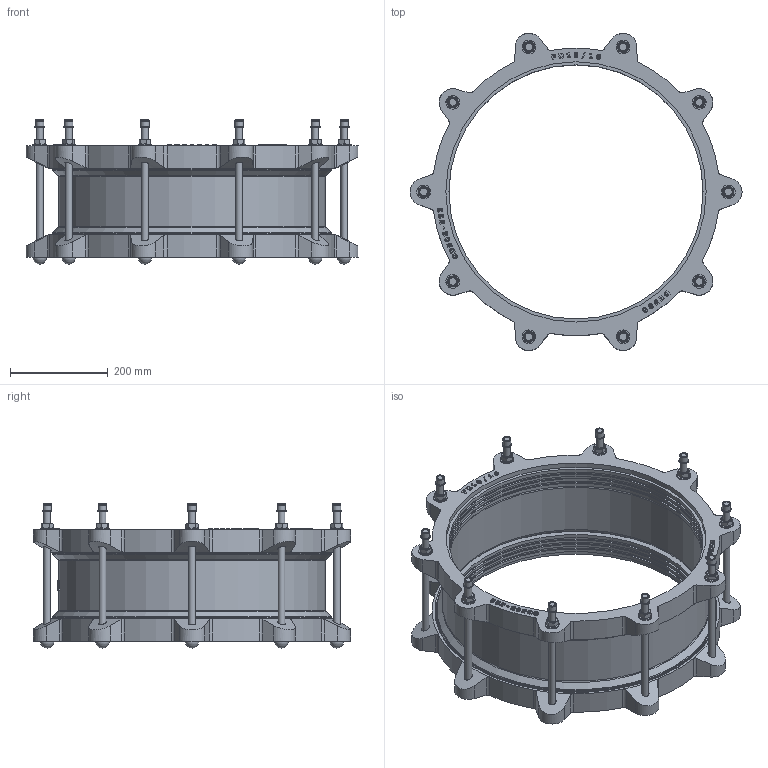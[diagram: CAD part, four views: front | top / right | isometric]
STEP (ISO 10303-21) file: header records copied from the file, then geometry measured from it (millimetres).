
FILE_DESCRIPTION(('STEP AP203'), '1');
FILE_NAME('Cîåäèíèòåëüíàÿ ìóôòà äëÿ æåñòêèõ òðóá', '', ('UNSPECIFIED'), ('UNSPECIFIED'), 'C3D Converter', 'C3D Toolkit', '');
FILE_SCHEMA(('CONFIG_CONTROL_DESIGN'));
Length unit declared in the file: millimetre
Assembly tree (45 placements, depth 2):
  (unnamed)
    (unnamed)
    (unnamed)  x10
    (unnamed)  x10
    (unnamed)  x10
    (unnamed)  x10
    (unnamed)
    (unnamed)
    (unnamed)  x2
Bounding box: 680 x 649.46 x 295.4 mm (x, y, z)
Volume: 9289429 mm3; surface area: 1950502.7 mm2
Topology: 49 solids, 49 shells, 1141 faces, 2815 edges, 1842 vertices
Faces by surface type: extrusion 416, plane 404, cylinder 207, cone 76, torus 28, sphere 10
Full cylindrical faces by diameter (mm): 14 x30, 15 x10, 16 x20, 16.8 x10, 19.6 x10, 25.619 x1, 28 x10, 520.5 x8, 526.75 x6, 533 x3, 540 x2, 547 x3, 571.5 x2, 575 x4
Entity records: 40998 total; most frequent: CARTESIAN_POINT 15538, ORIENTED_EDGE 4402, DIRECTION 2831, EDGE_CURVE 2201, VERTEX_POINT 1496, B_SPLINE_CURVE_WITH_KNOTS 1378, VECTOR 1373, EDGE_LOOP 1035
